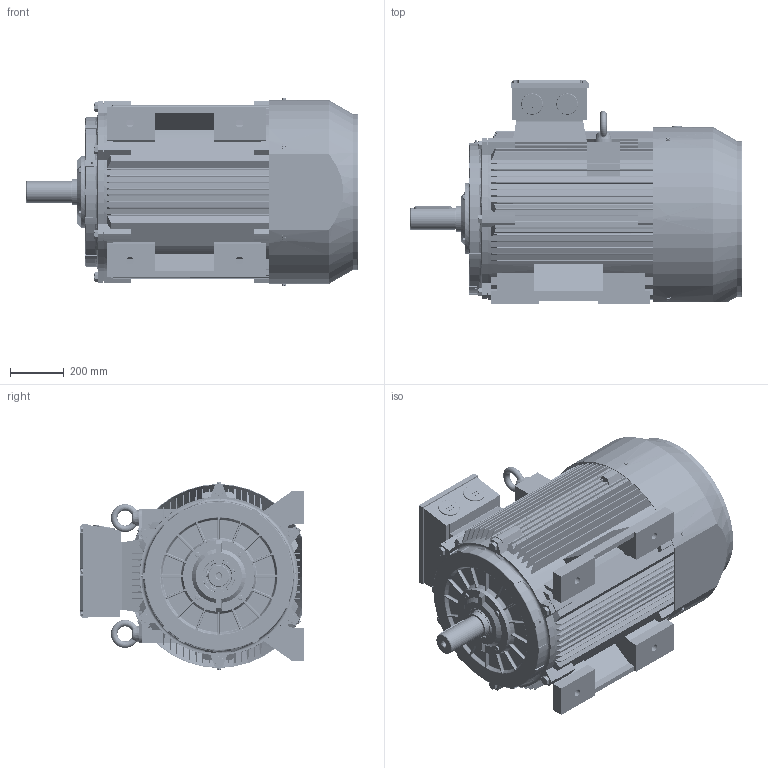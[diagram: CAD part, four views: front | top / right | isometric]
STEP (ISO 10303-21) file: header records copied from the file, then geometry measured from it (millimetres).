
FILE_DESCRIPTION (( 'STEP AP203' ), '1' );
FILE_NAME ('Motor-315S-4_B3_Step.STEP', '2024-06-26T10:12:06', ( '' ), ( '' ), 'SwSTEP 2.0', 'SolidWorks 2021', '' );
FILE_SCHEMA (( 'CONFIG_CONTROL_DESIGN' ));
Length unit declared in the file: millimetre
Products named in the file (22): M10-90_____^Motor-315S-4_B3_Step(2)_Motor-315S-4_B3_Step; ___________________^Motor-315S-4_B3_Step(2)_Motor-315S-4_B3_Step; ____M30_____^Motor-315S-4_B3_Step(2)_Motor-315S-4_B3_Step; M20-70_____^Motor-315S-4_B3_Step(2)_Motor-315S-4_B3_Step; TC 315_____________-0^Motor-315S-4_B3_Step(2)_Motor-315S-4_B3_Step; TC 315S-4_________^Motor-315S-4_B3_Step(2)_Motor-315S-4_B3_Step; M63_________^Motor-315S-4_B3_Step(2)_Motor-315S-4_B3_Step; TC 315-4 B3_________^Motor-315S-4_B3_Step(2)_Motor-315S-4_B3_Step; Motor-315S-4_B3_Step; TC 315-4_________^Motor-315S-4_B3_Step(2)_Motor-315S-4_B3_Step; TC 315-4_____________^Motor-315S-4_B3_Step(2)_Motor-315S-4_B3_Step; ____120-95-12_____^Motor-315S-4_B3_Step(2)_Motor-315S-4_B3_Step; TC 315-4_________-1^Motor-315S-4_B3_Step(2)_Motor-315S-4_B3_Step; TC 315-4 B3___________^Motor-315S-4_B3_Step(2)_Motor-315S-4_B3_Step; TX315_______________^Motor-315S-4_B3_Step(2)_Motor-315S-4_B3_Step; Motor-315S-4_B3_Step(2)^Motor-315S-4_B3_Step; ___________^Motor-315S-4_B3_Step(2)_Motor-315S-4_B3_Step; _________^Motor-315S-4_B3_Step(2)_Motor-315S-4_B3_Step; TX315___________________^Motor-315S-4_B3_Step(2)_Motor-315S-4_B3_Step; TC 315S ____ B3_____^Motor-315S-4_B3_Step(2)_Motor-315S-4_B3_Step; M10-25_____^Motor-315S-4_B3_Step(2)_Motor-315S-4_B3_Step; TC 315_____________^Motor-315S-4_B3_Step(2)_Motor-315S-4_B3_Step
Assembly tree (42 placements, depth 3):
  Motor-315S-4_B3_Step
    Motor-315S-4_B3_Step(2)^Motor-315S-4_B3_Step
      TC 315-4_____________^Motor-315S-4_B3_Step(2)_Motor-315S-4_B3_Step  x2
      ____M30_____^Motor-315S-4_B3_Step(2)_Motor-315S-4_B3_Step  x2
      ___________________^Motor-315S-4_B3_Step(2)_Motor-315S-4_B3_Step  x6
      M63_________^Motor-315S-4_B3_Step(2)_Motor-315S-4_B3_Step  x2
      M10-25_____^Motor-315S-4_B3_Step(2)_Motor-315S-4_B3_Step  x6
      TC 315-4 B3___________^Motor-315S-4_B3_Step(2)_Motor-315S-4_B3_Step
      TC 315_____________^Motor-315S-4_B3_Step(2)_Motor-315S-4_B3_Step
      M20-70_____^Motor-315S-4_B3_Step(2)_Motor-315S-4_B3_Step  x6
      TC 315-4_________^Motor-315S-4_B3_Step(2)_Motor-315S-4_B3_Step
      _________^Motor-315S-4_B3_Step(2)_Motor-315S-4_B3_Step
      TX315_______________^Motor-315S-4_B3_Step(2)_Motor-315S-4_B3_Step
      ____120-95-12_____^Motor-315S-4_B3_Step(2)_Motor-315S-4_B3_Step
      M10-90_____^Motor-315S-4_B3_Step(2)_Motor-315S-4_B3_Step  x4
      TC 315-4 B3_________^Motor-315S-4_B3_Step(2)_Motor-315S-4_B3_Step
      TC 315_____________-0^Motor-315S-4_B3_Step(2)_Motor-315S-4_B3_Step
      TC 315-4_________-1^Motor-315S-4_B3_Step(2)_Motor-315S-4_B3_Step
      TC 315S ____ B3_____^Motor-315S-4_B3_Step(2)_Motor-315S-4_B3_Step
      ___________^Motor-315S-4_B3_Step(2)_Motor-315S-4_B3_Step
      TX315___________________^Motor-315S-4_B3_Step(2)_Motor-315S-4_B3_Step
      TC 315S-4_________^Motor-315S-4_B3_Step(2)_Motor-315S-4_B3_Step
Bounding box: 1232 x 829 x 694.6 mm (x, y, z)
Volume: 97899465 mm3; surface area: 11673097.8 mm2
Topology: 42 solids, 42 shells, 8038 faces, 22276 edges, 14510 vertices
Faces by surface type: plane 5633, cylinder 881, cone 442, torus 440, sphere 364, bspline 278
Entity records: 293097 total; most frequent: CARTESIAN_POINT 96465, ORIENTED_EDGE 41902, DIRECTION 36429, EDGE_CURVE 20951, LINE 15319, VECTOR 15319, VERTEX_POINT 13682, AXIS2_PLACEMENT_3D 10555
